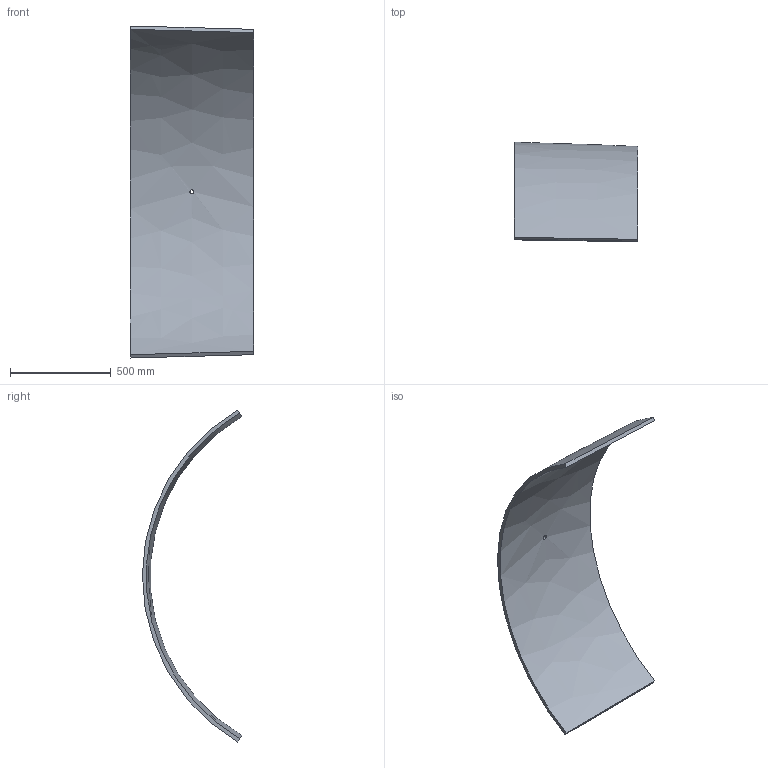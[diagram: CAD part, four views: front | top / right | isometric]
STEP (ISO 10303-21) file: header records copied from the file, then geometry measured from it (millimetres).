
FILE_DESCRIPTION (( 'STEP AP214' ), '1' );
FILE_NAME ('Section 14-ABC.STEP', '2025-01-09T19:43:26', ( '' ), ( '' ), 'SwSTEP 2.0', 'SolidWorks 2024', '' );
FILE_SCHEMA (( 'AUTOMOTIVE_DESIGN' ));
Length unit declared in the file: inch
Products named in the file (1): Section 14-ABC
Bounding box: 610.2 x 492.53 x 1646.51 mm (x, y, z)
Volume: 22632520.6 mm3; surface area: 2474929.8 mm2
Topology: 1 solids, 1 shells, 7 faces, 15 edges, 10 vertices
Faces by surface type: bspline 6, cylinder 1
Full cylindrical faces by diameter (mm): 19.447 x1
Entity records: 875 total; most frequent: CARTESIAN_POINT 738, ORIENTED_EDGE 28, B_SPLINE_CURVE_WITH_KNOTS 14, EDGE_CURVE 14, EDGE_LOOP 10, VERTEX_POINT 10, FACE_OUTER_BOUND 8, ADVANCED_FACE 7
